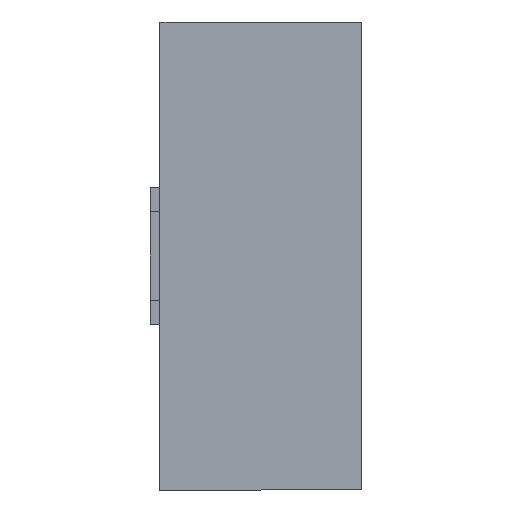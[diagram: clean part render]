
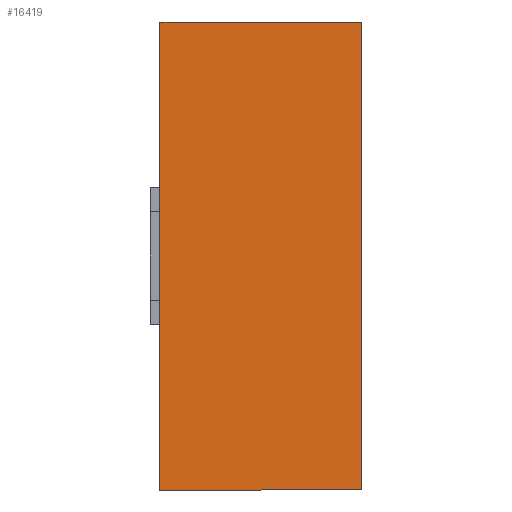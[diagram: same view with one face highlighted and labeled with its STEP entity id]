
A CAD part, left-side view. The second image highlights one B-rep face of the part: STEP entity #16419.
In plain terms, the highlighted planar face has unit normal (-1, 0, 0).
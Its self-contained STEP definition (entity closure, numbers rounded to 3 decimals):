
#3652 = CARTESIAN_POINT ( 'NONE',  ( 0., 22.569, 29. ) ) ;
#3653 = DIRECTION ( 'NONE',  ( 0., 0., 1. ) ) ;
#3654 = VECTOR ( 'NONE', #3653, 1000. ) ;
#3655 = CARTESIAN_POINT ( 'NONE',  ( 0., 22.569, 14.5 ) ) ;
#3656 = LINE ( 'NONE', #3655, #3654 ) ;
#3658 = CARTESIAN_POINT ( 'NONE',  ( 0., 22.569, 0. ) ) ;
#3845 = CARTESIAN_POINT ( 'NONE',  ( 0., 10.069, 29. ) ) ;
#3846 = DIRECTION ( 'NONE',  ( 0., -1., 0. ) ) ;
#3847 = VECTOR ( 'NONE', #3846, 1000. ) ;
#3848 = CARTESIAN_POINT ( 'NONE',  ( 0., 15.569, 29. ) ) ;
#3849 = LINE ( 'NONE', #3848, #3847 ) ;
#3920 = DIRECTION ( 'NONE',  ( 0., 1., 0. ) ) ;
#3921 = VECTOR ( 'NONE', #3920, 1000. ) ;
#3922 = CARTESIAN_POINT ( 'NONE',  ( 0., 15.569, 0. ) ) ;
#3923 = LINE ( 'NONE', #3922, #3921 ) ;
#3924 = DIRECTION ( 'NONE',  ( 0., 0., -1. ) ) ;
#3925 = DIRECTION ( 'NONE',  ( 1., 0., 0. ) ) ;
#3926 = CARTESIAN_POINT ( 'NONE',  ( 0., 16.569, 14.5 ) ) ;
#3927 = AXIS2_PLACEMENT_3D ( 'NONE', #3926, #3925, #3924 ) ;
#3928 = PLANE ( 'NONE',  #3927 ) ;
#3929 = FACE_OUTER_BOUND ( 'NONE', #16420, .T. ) ;
#3936 = DIRECTION ( 'NONE',  ( 0., 0., -1. ) ) ;
#3937 = VECTOR ( 'NONE', #3936, 1000. ) ;
#3938 = CARTESIAN_POINT ( 'NONE',  ( 0., 10.069, 0. ) ) ;
#3939 = LINE ( 'NONE', #3938, #3937 ) ;
#3940 = CARTESIAN_POINT ( 'NONE',  ( 0., 10.069, 0. ) ) ;
#16010 = VERTEX_POINT ( 'NONE', #3658 ) ;
#16013 = EDGE_CURVE ( 'NONE', #16010, #16014, #3656, .T. ) ;
#16014 = VERTEX_POINT ( 'NONE', #3652 ) ;
#16176 = EDGE_CURVE ( 'NONE', #16014, #16177, #3849, .T. ) ;
#16177 = VERTEX_POINT ( 'NONE', #3845 ) ;
#16400 = VERTEX_POINT ( 'NONE', #3940 ) ;
#16401 = ORIENTED_EDGE ( 'NONE', *, *, #16402, .F. ) ;
#16402 = EDGE_CURVE ( 'NONE', #16177, #16400, #3939, .T. ) ;
#16403 = ORIENTED_EDGE ( 'NONE', *, *, #16176, .F. ) ;
#16419 = ADVANCED_FACE ( 'NONE', ( #3929 ), #3928, .F. ) ;
#16420 = EDGE_LOOP ( 'NONE', ( #16421, #16422, #16401, #16403 ) ) ;
#16421 = ORIENTED_EDGE ( 'NONE', *, *, #16013, .F. ) ;
#16422 = ORIENTED_EDGE ( 'NONE', *, *, #16423, .F. ) ;
#16423 = EDGE_CURVE ( 'NONE', #16400, #16010, #3923, .T. ) ;
